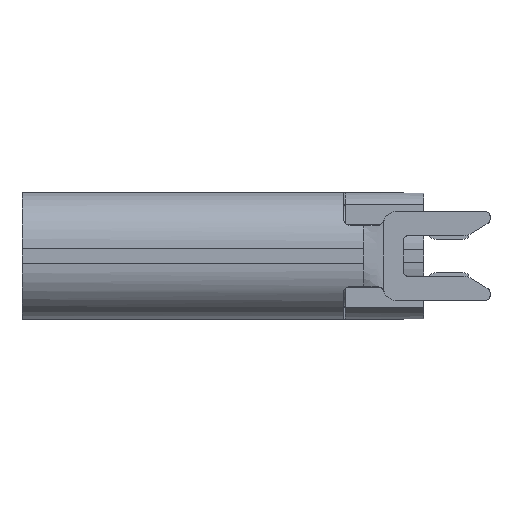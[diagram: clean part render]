
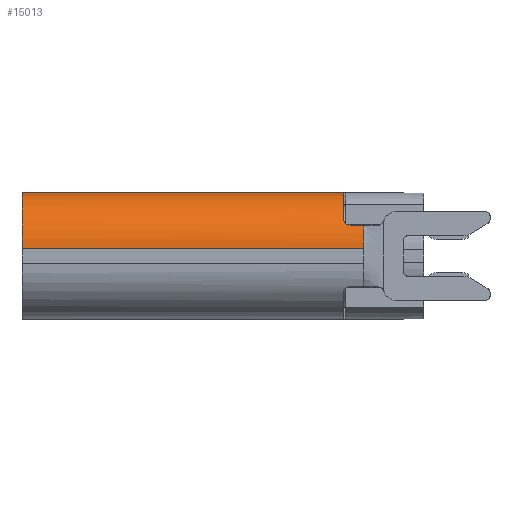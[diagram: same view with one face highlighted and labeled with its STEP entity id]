
A CAD part, left-side view. The second image highlights one B-rep face of the part: STEP entity #15013.
In plain terms, the highlighted cylindrical face has radius 1.4 mm (diameter 2.8 mm), a partial arc.
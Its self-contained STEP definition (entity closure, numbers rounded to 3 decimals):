
#69 = EDGE_CURVE ( 'NONE', #28381, #26777, #11404, .T. ) ;
#590 = CIRCLE ( 'NONE', #10621, 1.4 ) ;
#591 = CARTESIAN_POINT ( 'NONE',  ( -14.916, 26.939, -6.447 ) ) ;
#658 = DIRECTION ( 'NONE',  ( 0., 1., 0. ) ) ;
#3016 = CARTESIAN_POINT ( 'NONE',  ( -14.916, 25.939, -6.447 ) ) ;
#3170 = EDGE_LOOP ( 'NONE', ( #10893, #3559, #6531, #5597, #12927, #15656, #21924 ) ) ;
#3346 = DIRECTION ( 'NONE',  ( 0., 1., 0. ) ) ;
#3559 = ORIENTED_EDGE ( 'NONE', *, *, #69, .F. ) ;
#3975 = CARTESIAN_POINT ( 'NONE',  ( -13.516, 27.439, -6.447 ) ) ;
#5597 = ORIENTED_EDGE ( 'NONE', *, *, #12780, .T. ) ;
#6440 = CARTESIAN_POINT ( 'NONE',  ( -14.795, 27.439, -5.877 ) ) ;
#6531 = ORIENTED_EDGE ( 'NONE', *, *, #22674, .F. ) ;
#6606 = CYLINDRICAL_SURFACE ( 'NONE', #21771, 1.4 ) ;
#7871 = CARTESIAN_POINT ( 'NONE',  ( -14.814, 26.939, -5.921 ) ) ;
#8177 = CARTESIAN_POINT ( 'NONE',  ( -14.888, 26.939, -6.155 ) ) ;
#8355 = CARTESIAN_POINT ( 'NONE',  ( -13.516, 35.439, -5.047 ) ) ;
#8555 = CIRCLE ( 'NONE', #19584, 1.4 ) ;
#9126 = DIRECTION ( 'NONE',  ( 1., 0., 0. ) ) ;
#9284 = DIRECTION ( 'NONE',  ( 0., 1., 0. ) ) ;
#9972 = VERTEX_POINT ( 'NONE', #8355 ) ;
#10073 = B_SPLINE_CURVE_WITH_KNOTS ( 'NONE', 3,
 ( #19571, #24457, #29488, #21366, #30975, #19007 ),
 .UNSPECIFIED., .F., .F.,
 ( 4, 2, 4 ),
 ( 0., 0.5, 1. ),
 .UNSPECIFIED. ) ;
#10265 = VECTOR ( 'NONE', #20573, 1000. ) ;
#10537 = CARTESIAN_POINT ( 'NONE',  ( -14.916, 26.939, -6.398 ) ) ;
#10621 = AXIS2_PLACEMENT_3D ( 'NONE', #3975, #23155, #11210 ) ;
#10893 = ORIENTED_EDGE ( 'NONE', *, *, #28658, .F. ) ;
#11210 = DIRECTION ( 'NONE',  ( -1., 0., 0. ) ) ;
#11404 = B_SPLINE_CURVE_WITH_KNOTS ( 'NONE', 3,
 ( #15084, #7871, #24687, #8177, #15417, #10537, #27053 ),
 .UNSPECIFIED., .F., .F.,
 ( 4, 1, 1, 1, 4 ),
 ( 0., 0.25, 0.5, 0.75, 1. ),
 .UNSPECIFIED. ) ;
#12361 = VERTEX_POINT ( 'NONE', #14346 ) ;
#12780 = EDGE_CURVE ( 'NONE', #17671, #20218, #10073, .T. ) ;
#12927 = ORIENTED_EDGE ( 'NONE', *, *, #19527, .F. ) ;
#13447 = CARTESIAN_POINT ( 'NONE',  ( -14.7, 27.439, -5.7 ) ) ;
#13554 = VECTOR ( 'NONE', #3346, 1000. ) ;
#14346 = CARTESIAN_POINT ( 'NONE',  ( -14.916, 35.439, -6.447 ) ) ;
#14690 = VERTEX_POINT ( 'NONE', #28366 ) ;
#15013 = ADVANCED_FACE ( 'NONE', ( #18540 ), #6606, .T. ) ;
#15084 = CARTESIAN_POINT ( 'NONE',  ( -14.795, 26.939, -5.877 ) ) ;
#15417 = CARTESIAN_POINT ( 'NONE',  ( -14.911, 26.939, -6.3 ) ) ;
#15515 = CARTESIAN_POINT ( 'NONE',  ( -13.516, 35.439, -6.447 ) ) ;
#15656 = ORIENTED_EDGE ( 'NONE', *, *, #18314, .T. ) ;
#16735 = VECTOR ( 'NONE', #658, 1000. ) ;
#17671 = VERTEX_POINT ( 'NONE', #18205 ) ;
#18110 = EDGE_CURVE ( 'NONE', #12361, #9972, #8555, .T. ) ;
#18205 = CARTESIAN_POINT ( 'NONE',  ( -14.795, 27.239, -5.877 ) ) ;
#18314 = EDGE_CURVE ( 'NONE', #14690, #9972, #20314, .T. ) ;
#18540 = FACE_OUTER_BOUND ( 'NONE', #3170, .T. ) ;
#19007 = CARTESIAN_POINT ( 'NONE',  ( -14.7, 27.439, -5.7 ) ) ;
#19527 = EDGE_CURVE ( 'NONE', #14690, #20218, #590, .T. ) ;
#19571 = CARTESIAN_POINT ( 'NONE',  ( -14.795, 27.239, -5.877 ) ) ;
#19584 = AXIS2_PLACEMENT_3D ( 'NONE', #15515, #23046, #30454 ) ;
#20218 = VERTEX_POINT ( 'NONE', #13447 ) ;
#20314 = LINE ( 'NONE', #29270, #13554 ) ;
#20573 = DIRECTION ( 'NONE',  ( 0., -1., 0. ) ) ;
#21366 = CARTESIAN_POINT ( 'NONE',  ( -14.753, 27.418, -5.79 ) ) ;
#21771 = AXIS2_PLACEMENT_3D ( 'NONE', #28146, #9284, #9126 ) ;
#21924 = ORIENTED_EDGE ( 'NONE', *, *, #18110, .F. ) ;
#22508 = LINE ( 'NONE', #3016, #16735 ) ;
#22674 = EDGE_CURVE ( 'NONE', #17671, #28381, #27679, .T. ) ;
#23046 = DIRECTION ( 'NONE',  ( 0., 1., 0. ) ) ;
#23155 = DIRECTION ( 'NONE',  ( 0., -1., 0. ) ) ;
#24457 = CARTESIAN_POINT ( 'NONE',  ( -14.794, 27.293, -5.876 ) ) ;
#24687 = CARTESIAN_POINT ( 'NONE',  ( -14.85, 26.939, -6.013 ) ) ;
#26777 = VERTEX_POINT ( 'NONE', #591 ) ;
#27053 = CARTESIAN_POINT ( 'NONE',  ( -14.916, 26.939, -6.447 ) ) ;
#27127 = CARTESIAN_POINT ( 'NONE',  ( -14.795, 26.939, -5.877 ) ) ;
#27679 = LINE ( 'NONE', #6440, #10265 ) ;
#28146 = CARTESIAN_POINT ( 'NONE',  ( -13.516, 25.939, -6.447 ) ) ;
#28366 = CARTESIAN_POINT ( 'NONE',  ( -13.516, 27.439, -5.047 ) ) ;
#28381 = VERTEX_POINT ( 'NONE', #27127 ) ;
#28658 = EDGE_CURVE ( 'NONE', #26777, #12361, #22508, .T. ) ;
#29270 = CARTESIAN_POINT ( 'NONE',  ( -13.516, 25.939, -5.047 ) ) ;
#29488 = CARTESIAN_POINT ( 'NONE',  ( -14.786, 27.344, -5.857 ) ) ;
#30454 = DIRECTION ( 'NONE',  ( 1., 0., 0. ) ) ;
#30975 = CARTESIAN_POINT ( 'NONE',  ( -14.728, 27.439, -5.744 ) ) ;
